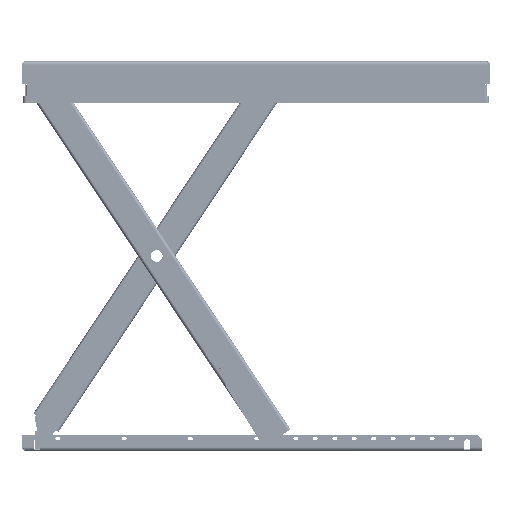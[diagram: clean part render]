
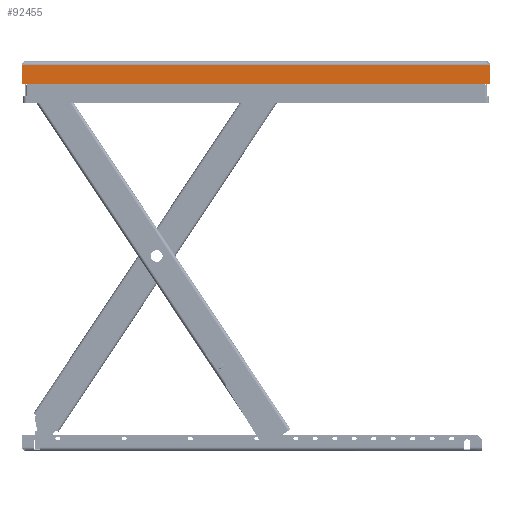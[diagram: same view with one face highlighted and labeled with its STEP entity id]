
A CAD part, front view. The second image highlights one B-rep face of the part: STEP entity #92455.
In plain terms, the highlighted planar face has unit normal (0, -1, 0).
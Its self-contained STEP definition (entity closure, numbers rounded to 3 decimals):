
#6481=FACE_OUTER_BOUND('',#12210,.T.);
#12210=EDGE_LOOP('',(#65215,#65216,#65217,#65218,#65219,#65220,#65221,#65222,
#65223,#65224,#65225,#65226,#65227,#65228));
#18351=CIRCLE('',#98517,1.);
#18364=CIRCLE('',#98536,1.);
#18414=CIRCLE('',#98674,1.);
#18415=CIRCLE('',#98677,38.539);
#18416=CIRCLE('',#98681,1.);
#18417=CIRCLE('',#98682,38.539);
#23006=LINE('',#143861,#31091);
#23208=LINE('',#144429,#31293);
#23211=LINE('',#144437,#31296);
#23214=LINE('',#144444,#31299);
#23218=LINE('',#144544,#31303);
#23219=LINE('',#144546,#31304);
#23220=LINE('',#144550,#31305);
#23221=LINE('',#144553,#31306);
#31091=VECTOR('',#109960,1197.978);
#31293=VECTOR('',#110470,0.828);
#31296=VECTOR('',#110479,0.936);
#31299=VECTOR('',#110488,26.819);
#31303=VECTOR('',#110496,1197.594);
#31304=VECTOR('',#110497,0.828);
#31305=VECTOR('',#110500,0.936);
#31306=VECTOR('',#110503,26.819);
#39260=VERTEX_POINT('',#143851);
#39261=VERTEX_POINT('',#143853);
#39263=VERTEX_POINT('',#143859);
#39292=VERTEX_POINT('',#143926);
#39448=VERTEX_POINT('',#144426);
#39449=VERTEX_POINT('',#144428);
#39450=VERTEX_POINT('',#144432);
#39451=VERTEX_POINT('',#144436);
#39452=VERTEX_POINT('',#144440);
#39460=VERTEX_POINT('',#144543);
#39461=VERTEX_POINT('',#144545);
#39462=VERTEX_POINT('',#144547);
#39463=VERTEX_POINT('',#144549);
#39464=VERTEX_POINT('',#144551);
#49128=EDGE_CURVE('',#39260,#39261,#18351,.T.);
#49132=EDGE_CURVE('',#39263,#39260,#23006,.T.);
#49164=EDGE_CURVE('',#39292,#39263,#18364,.T.);
#49398=EDGE_CURVE('',#39449,#39448,#23208,.T.);
#49400=EDGE_CURVE('',#39450,#39449,#18414,.T.);
#49402=EDGE_CURVE('',#39451,#39450,#23211,.T.);
#49404=EDGE_CURVE('',#39452,#39451,#18415,.T.);
#49406=EDGE_CURVE('',#39292,#39452,#23214,.T.);
#49417=EDGE_CURVE('',#39448,#39460,#23218,.T.);
#49418=EDGE_CURVE('',#39460,#39461,#23219,.T.);
#49419=EDGE_CURVE('',#39461,#39462,#18416,.T.);
#49420=EDGE_CURVE('',#39462,#39463,#23220,.T.);
#49421=EDGE_CURVE('',#39463,#39464,#18417,.T.);
#49422=EDGE_CURVE('',#39464,#39261,#23221,.T.);
#65215=ORIENTED_EDGE('',*,*,#49128,.F.);
#65216=ORIENTED_EDGE('',*,*,#49132,.F.);
#65217=ORIENTED_EDGE('',*,*,#49164,.F.);
#65218=ORIENTED_EDGE('',*,*,#49406,.T.);
#65219=ORIENTED_EDGE('',*,*,#49404,.T.);
#65220=ORIENTED_EDGE('',*,*,#49402,.T.);
#65221=ORIENTED_EDGE('',*,*,#49400,.T.);
#65222=ORIENTED_EDGE('',*,*,#49398,.T.);
#65223=ORIENTED_EDGE('',*,*,#49417,.T.);
#65224=ORIENTED_EDGE('',*,*,#49418,.T.);
#65225=ORIENTED_EDGE('',*,*,#49419,.T.);
#65226=ORIENTED_EDGE('',*,*,#49420,.T.);
#65227=ORIENTED_EDGE('',*,*,#49421,.T.);
#65228=ORIENTED_EDGE('',*,*,#49422,.T.);
#89335=PLANE('',#98680);
#92455=ADVANCED_FACE('',(#6481),#89335,.F.);
#98517=AXIS2_PLACEMENT_3D('',#143854,#109953,#109954);
#98536=AXIS2_PLACEMENT_3D('',#143927,#110014,#110015);
#98674=AXIS2_PLACEMENT_3D('',#144433,#110474,#110475);
#98677=AXIS2_PLACEMENT_3D('',#144441,#110483,#110484);
#98680=AXIS2_PLACEMENT_3D('',#144542,#110494,#110495);
#98681=AXIS2_PLACEMENT_3D('',#144548,#110498,#110499);
#98682=AXIS2_PLACEMENT_3D('',#144552,#110501,#110502);
#109953=DIRECTION('center_axis',(0.,1.,0.));
#109954=DIRECTION('ref_axis',(-0.707,0.,-0.707));
#109960=DIRECTION('',(-1.,0.,0.));
#110014=DIRECTION('center_axis',(0.,1.,0.));
#110015=DIRECTION('ref_axis',(0.707,0.,-0.707));
#110470=DIRECTION('',(-0.856,0.,0.516));
#110474=DIRECTION('center_axis',(0.,-1.,0.));
#110475=DIRECTION('ref_axis',(1.,0.,0.001));
#110479=DIRECTION('',(-0.001,0.,1.));
#110483=DIRECTION('center_axis',(0.,1.,0.));
#110484=DIRECTION('ref_axis',(0.966,0.,-0.259));
#110488=DIRECTION('',(0.,0.,1.));
#110494=DIRECTION('center_axis',(0.,1.,0.));
#110495=DIRECTION('ref_axis',(-1.,0.,0.));
#110496=DIRECTION('',(-1.,0.,0.));
#110497=DIRECTION('',(-0.856,0.,-0.516));
#110498=DIRECTION('center_axis',(0.,-1.,0.));
#110499=DIRECTION('ref_axis',(-1.,0.,0.001));
#110500=DIRECTION('',(-0.001,0.,-1.));
#110501=DIRECTION('center_axis',(0.,1.,0.));
#110502=DIRECTION('ref_axis',(-0.966,0.,-0.259));
#110503=DIRECTION('',(0.,0.,-1.));
#143851=CARTESIAN_POINT('',(-445.746,-413.939,940.));
#143853=CARTESIAN_POINT('',(-446.746,-413.939,941.));
#143854=CARTESIAN_POINT('Origin',(-445.746,-413.939,941.));
#143859=CARTESIAN_POINT('',(752.232,-413.939,940.));
#143861=CARTESIAN_POINT('',(753.243,-413.939,940.));
#143926=CARTESIAN_POINT('',(753.232,-413.939,941.));
#143927=CARTESIAN_POINT('Origin',(752.232,-413.939,941.));
#144426=CARTESIAN_POINT('',(752.04,-413.939,990.));
#144428=CARTESIAN_POINT('',(752.748,-413.939,989.573));
#144429=CARTESIAN_POINT('',(536.935,-413.939,1119.735));
#144432=CARTESIAN_POINT('',(753.232,-413.939,988.717));
#144433=CARTESIAN_POINT('Origin',(752.232,-413.939,988.716));
#144436=CARTESIAN_POINT('',(753.232,-413.939,987.781));
#144437=CARTESIAN_POINT('',(753.237,-413.939,979.489));
#144440=CARTESIAN_POINT('',(753.232,-413.939,967.819));
#144441=CARTESIAN_POINT('Origin',(790.456,-413.939,977.799));
#144444=CARTESIAN_POINT('',(753.232,-413.939,968.883));
#144542=CARTESIAN_POINT('Origin',(153.243,-413.939,969.946));
#144543=CARTESIAN_POINT('',(-445.554,-413.939,990.));
#144544=CARTESIAN_POINT('',(153.243,-413.939,990.));
#144545=CARTESIAN_POINT('',(-446.263,-413.939,989.573));
#144546=CARTESIAN_POINT('',(-230.449,-413.939,1119.735));
#144547=CARTESIAN_POINT('',(-446.746,-413.939,988.717));
#144548=CARTESIAN_POINT('Origin',(-445.746,-413.939,988.716));
#144549=CARTESIAN_POINT('',(-446.747,-413.939,987.781));
#144550=CARTESIAN_POINT('',(-446.751,-413.939,979.489));
#144551=CARTESIAN_POINT('',(-446.746,-413.939,967.819));
#144552=CARTESIAN_POINT('Origin',(-483.97,-413.939,977.799));
#144553=CARTESIAN_POINT('',(-446.746,-413.939,968.883));
